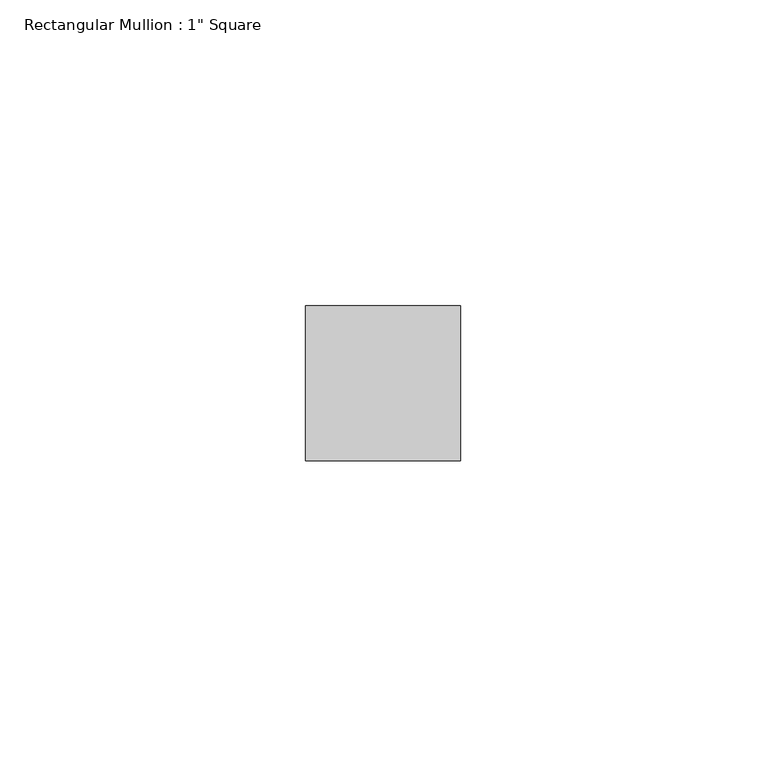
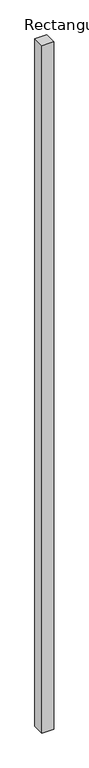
"""IFC4 building model written with IfcOpenShell, lengths in millimetres: member geometry."""

from ifc_helpers import new_model, si_unit, frame, origin, place, context, project, spatial, polyline, outline, extrude, source, transform, mapped, element, save


def member_c628317b(model_context):
    return source(origin(), model_context, "Body", "SweptSolid", [
        extrude(outline(polyline([(12.7, 12.7), (12.7, -12.7), (-12.7, -12.7), (-12.7, 12.7), (12.7, 12.7)])), frame((0.0, 0.0, -1529.1819639), z_axis=(0.0, 0.0, 1.0), x_axis=(1.0, 0.0, 0.0)), (0.0, 0.0, 1.0), 1529.1819639),
    ])


if __name__ == "__main__":
    model = new_model("IFC4")
    model_context = context("Model", 3, world=origin())
    ifc_project = project(units=[si_unit("LENGTHUNIT", "METRE", prefix="MILLI")], contexts=[model_context])
    site = spatial("IfcSite", under=ifc_project)
    building = spatial("IfcBuilding", under=site)
    placement = place(None, origin())
    member_shape = member_c628317b(model_context)
    element("IfcMember", 1, ObjectType="Rectangular Mullion : 1\" Square", at=placement, inside=building, context=model_context, shape_type="MappedRepresentation", body=[
        mapped(member_shape, transform((0.0, 0.0, 0.0), x_axis=(1.0, 0.0, 0.0), y_axis=(0.0, 1.0, 0.0), z_axis=(0.0, 0.0, 1.0))),
    ])
    save(model, "model.ifc")
